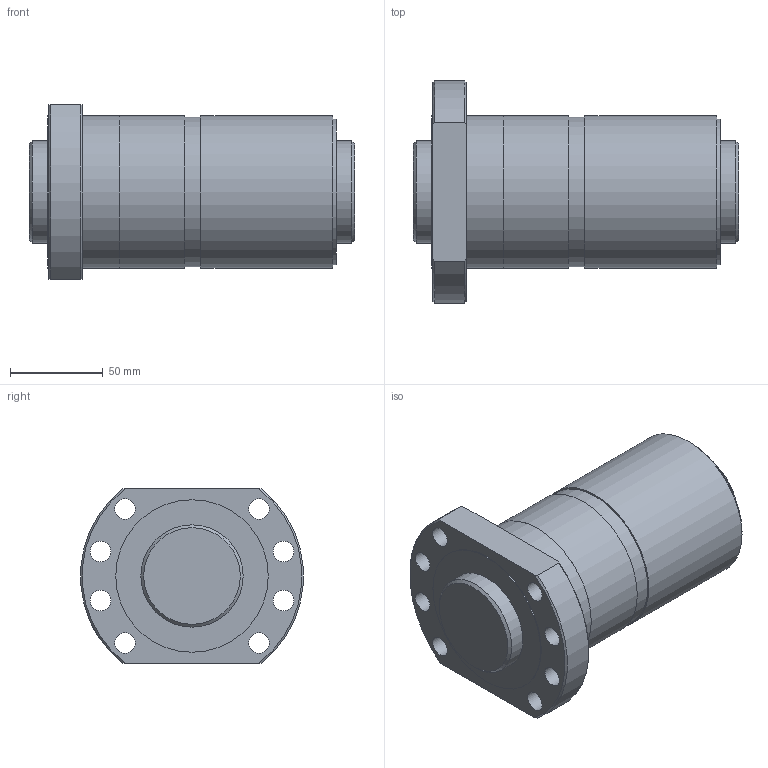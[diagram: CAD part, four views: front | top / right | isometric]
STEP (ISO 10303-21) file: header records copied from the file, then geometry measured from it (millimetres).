
FILE_DESCRIPTION(/* description */ ('STEP AP203'),/* implementation_level */ '2;1');
FILE_NAME(/* name */ 'SDAN5516VAX-4G0+175LC0(0G000)',/* time_stamp */ '2024-07-04T07:39:25+02:00',/* author */ ('License CC BY-ND 4.0'),/* organization */ ('CADENAS'),/* preprocessor_version */ 'ST-DEVELOPER v19.3',/* originating_system */ 'PARTsolutions',/* authorisation */ ' ');
FILE_SCHEMA (('CONFIG_CONTROL_DESIGN'));
Length unit declared in the file: millimetre
Products named in the file (3): SDAN5516VAX-4G0+175LC0(0G000); 0SDAN5516VAX-40Shaft; SDAN5516VAX-4_nut
Assembly tree (2 placements, depth 2):
  SDAN5516VAX-4G0+175LC0(0G000)
    0SDAN5516VAX-40Shaft
    SDAN5516VAX-4_nut
Bounding box: 175 x 119.6 x 94 mm (x, y, z)
Volume: 932713.7 mm3; surface area: 123264 mm2
Topology: 2 solids, 2 shells, 41 faces, 95 edges, 65 vertices
Faces by surface type: cylinder 21, plane 13, cone 7
Full cylindrical faces by diameter (mm): 5.2 x1, 6.917 x1, 11 x8, 55 x2, 78.4 x1, 80 x1, 80.36 x1, 82 x4
Entity records: 1143 total; most frequent: CARTESIAN_POINT 208, DIRECTION 188, ORIENTED_EDGE 128, EDGE_LOOP 90, FACE_BOUND 90, AXIS2_PLACEMENT_3D 90, EDGE_CURVE 64, VERTEX_POINT 56
